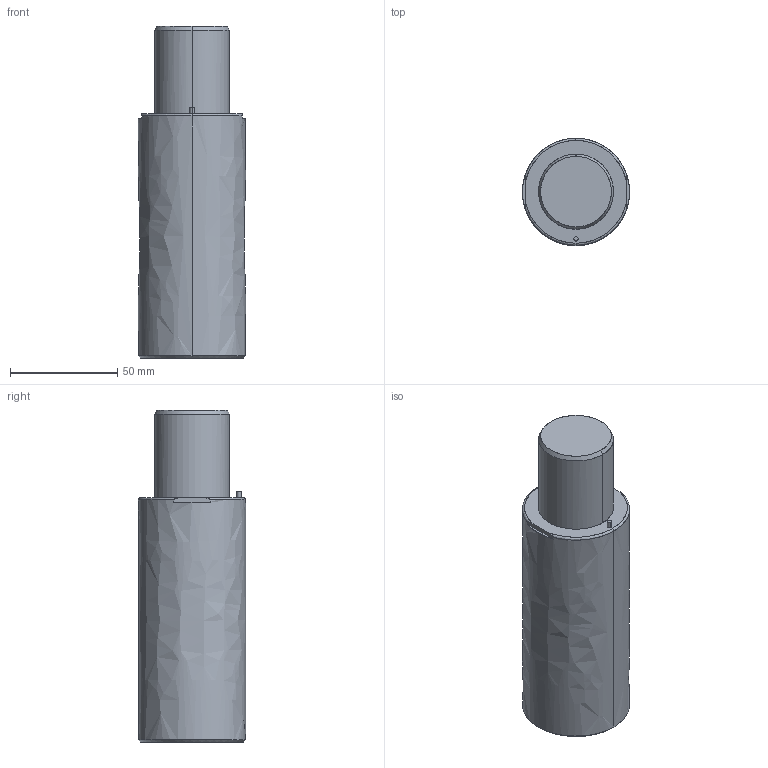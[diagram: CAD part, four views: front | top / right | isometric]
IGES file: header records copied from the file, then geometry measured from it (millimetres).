
Global section: file name: E:\UnigraphicsGraphicData\MISUMI_PRESS-PARTS\IGES\3d_gsx50-38_03960_r00.igs; native system: NX V5.0; preprocessor: UGS NX IGES V5.0; author: MISUMI; date: 20110105.160828; units: millimetre
Bounding box: 50 x 50 x 155 mm (x, y, z)
Surface area: 27810.9 mm2 (no closed solid volume)
Topology: 0 solids, 0 shells, 59 faces, 428 edges, 420 vertices
Faces by surface type: bspline 59
